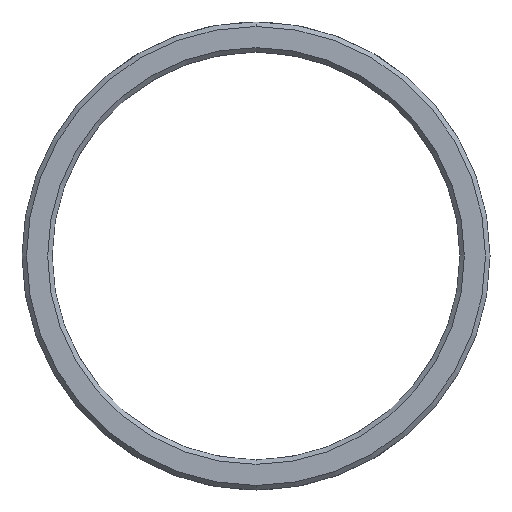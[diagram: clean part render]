
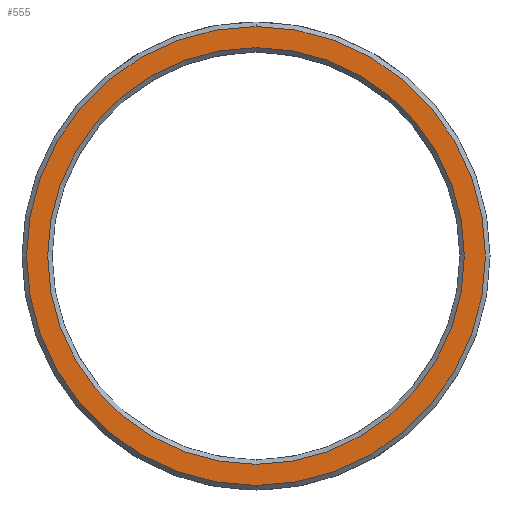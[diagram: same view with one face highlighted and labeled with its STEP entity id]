
A CAD part, front view. The second image highlights one B-rep face of the part: STEP entity #555.
In plain terms, the highlighted planar face has unit normal (0, -1, 0).
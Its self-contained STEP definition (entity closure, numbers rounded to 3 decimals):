
#5 = EDGE_CURVE ( 'NONE', #412, #695, #45, .T. ) ;
#36 = CIRCLE ( 'NONE', #430, 13.8 ) ;
#44 = EDGE_LOOP ( 'NONE', ( #503, #248 ) ) ;
#45 = CIRCLE ( 'NONE', #580, 15.2 ) ;
#54 = EDGE_CURVE ( 'NONE', #695, #412, #312, .T. ) ;
#67 = DIRECTION ( 'NONE',  ( 0., 0., 1. ) ) ;
#94 = CARTESIAN_POINT ( 'NONE',  ( 0., 0., 0. ) ) ;
#110 = CARTESIAN_POINT ( 'NONE',  ( 0., 0., 15.2 ) ) ;
#120 = DIRECTION ( 'NONE',  ( 0., 1., 0. ) ) ;
#128 = AXIS2_PLACEMENT_3D ( 'NONE', #142, #358, #469 ) ;
#142 = CARTESIAN_POINT ( 'NONE',  ( 0., 0., 0. ) ) ;
#148 = CARTESIAN_POINT ( 'NONE',  ( 0., 0., 0. ) ) ;
#181 = CARTESIAN_POINT ( 'NONE',  ( 0., 0., -13.8 ) ) ;
#194 = DIRECTION ( 'NONE',  ( 0., -1., 0. ) ) ;
#248 = ORIENTED_EDGE ( 'NONE', *, *, #54, .T. ) ;
#250 = DIRECTION ( 'NONE',  ( 0., -1., 0. ) ) ;
#271 = EDGE_CURVE ( 'NONE', #506, #609, #36, .T. ) ;
#291 = FACE_BOUND ( 'NONE', #318, .T. ) ;
#302 = DIRECTION ( 'NONE',  ( 0., 1., 0. ) ) ;
#312 = CIRCLE ( 'NONE', #457, 15.2 ) ;
#318 = EDGE_LOOP ( 'NONE', ( #440, #684 ) ) ;
#345 = PLANE ( 'NONE',  #473 ) ;
#358 = DIRECTION ( 'NONE',  ( 0., 1., 0. ) ) ;
#412 = VERTEX_POINT ( 'NONE', #110 ) ;
#430 = AXIS2_PLACEMENT_3D ( 'NONE', #439, #120, #67 ) ;
#439 = CARTESIAN_POINT ( 'NONE',  ( 0., 0., 0. ) ) ;
#440 = ORIENTED_EDGE ( 'NONE', *, *, #271, .T. ) ;
#457 = AXIS2_PLACEMENT_3D ( 'NONE', #94, #250, #625 ) ;
#469 = DIRECTION ( 'NONE',  ( 0., 0., 1. ) ) ;
#473 = AXIS2_PLACEMENT_3D ( 'NONE', #552, #302, #507 ) ;
#503 = ORIENTED_EDGE ( 'NONE', *, *, #5, .T. ) ;
#506 = VERTEX_POINT ( 'NONE', #181 ) ;
#507 = DIRECTION ( 'NONE',  ( 0., 0., 1. ) ) ;
#529 = CIRCLE ( 'NONE', #128, 13.8 ) ;
#552 = CARTESIAN_POINT ( 'NONE',  ( 0., 0., 0. ) ) ;
#555 = ADVANCED_FACE ( 'NONE', ( #291, #606 ), #345, .F. ) ;
#556 = CARTESIAN_POINT ( 'NONE',  ( 0., 0., 13.8 ) ) ;
#580 = AXIS2_PLACEMENT_3D ( 'NONE', #148, #194, #581 ) ;
#581 = DIRECTION ( 'NONE',  ( 0., 0., 1. ) ) ;
#606 = FACE_OUTER_BOUND ( 'NONE', #44, .T. ) ;
#609 = VERTEX_POINT ( 'NONE', #556 ) ;
#625 = DIRECTION ( 'NONE',  ( 0., 0., 1. ) ) ;
#684 = ORIENTED_EDGE ( 'NONE', *, *, #703, .T. ) ;
#693 = CARTESIAN_POINT ( 'NONE',  ( 0., 0., -15.2 ) ) ;
#695 = VERTEX_POINT ( 'NONE', #693 ) ;
#703 = EDGE_CURVE ( 'NONE', #609, #506, #529, .T. ) ;
